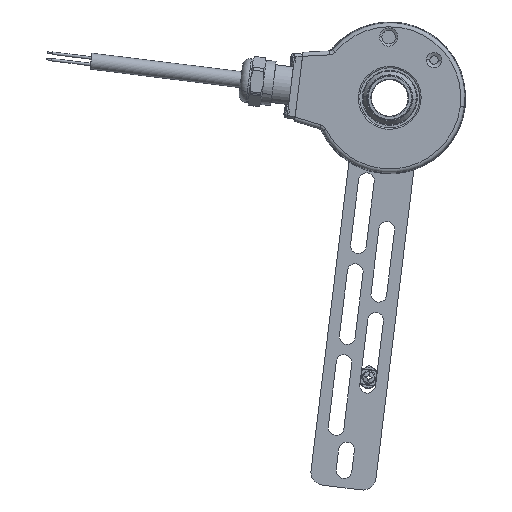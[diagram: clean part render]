
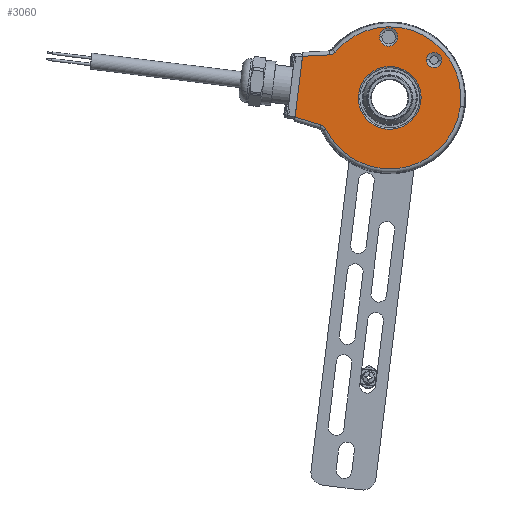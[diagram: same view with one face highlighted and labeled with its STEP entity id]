
A CAD part, left-side view. The second image highlights one B-rep face of the part: STEP entity #3060.
In plain terms, the highlighted planar face has unit normal (-1, 0, 0).
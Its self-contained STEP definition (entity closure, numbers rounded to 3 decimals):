
#2387 = EDGE_CURVE ( 'NONE', #3978, #3931, #4669, .T. ) ;
#3006 = ORIENTED_EDGE ( 'NONE', *, *, #3977, .T. ) ;
#3007 = ORIENTED_EDGE ( 'NONE', *, *, #6802, .T. ) ;
#3008 = EDGE_LOOP ( 'NONE', ( #3054, #3055 ) ) ;
#3009 = EDGE_LOOP ( 'NONE', ( #3056, #3007, #3013, #3164, #3165, #3158, #3154 ) ) ;
#3010 = ORIENTED_EDGE ( 'NONE', *, *, #2387, .T. ) ;
#3011 = ORIENTED_EDGE ( 'NONE', *, *, #3058, .T. ) ;
#3012 = EDGE_LOOP ( 'NONE', ( #3006, #3010 ) ) ;
#3013 = ORIENTED_EDGE ( 'NONE', *, *, #6771, .F. ) ;
#3054 = ORIENTED_EDGE ( 'NONE', *, *, #6780, .T. ) ;
#3055 = ORIENTED_EDGE ( 'NONE', *, *, #6903, .T. ) ;
#3056 = ORIENTED_EDGE ( 'NONE', *, *, #6894, .F. ) ;
#3058 = EDGE_CURVE ( 'NONE', #18146, #3536, #9121, .T. ) ;
#3059 = EDGE_LOOP ( 'NONE', ( #3061, #3011 ) ) ;
#3060 = ADVANCED_FACE ( 'NONE', ( #9116, #9115, #9114, #9113 ), #9159, .F. ) ;
#3061 = ORIENTED_EDGE ( 'NONE', *, *, #3472, .T. ) ;
#3154 = ORIENTED_EDGE ( 'NONE', *, *, #6759, .T. ) ;
#3158 = ORIENTED_EDGE ( 'NONE', *, *, #6770, .T. ) ;
#3164 = ORIENTED_EDGE ( 'NONE', *, *, #6842, .T. ) ;
#3165 = ORIENTED_EDGE ( 'NONE', *, *, #6821, .F. ) ;
#3472 = EDGE_CURVE ( 'NONE', #3536, #18146, #10409, .T. ) ;
#3536 = VERTEX_POINT ( 'NONE', #10611 ) ;
#3931 = VERTEX_POINT ( 'NONE', #11955 ) ;
#3977 = EDGE_CURVE ( 'NONE', #3931, #3978, #12097, .T. ) ;
#3978 = VERTEX_POINT ( 'NONE', #12092 ) ;
#4665 = DIRECTION ( 'NONE',  ( 0., -0.993, -0.122 ) ) ;
#4666 = DIRECTION ( 'NONE',  ( 1., 0., 0. ) ) ;
#4667 = CARTESIAN_POINT ( 'NONE',  ( -19., 0.406, 23.246 ) ) ;
#4668 = AXIS2_PLACEMENT_3D ( 'NONE', #4667, #4666, #4665 ) ;
#4669 = CIRCLE ( 'NONE', #4668, 3.466 ) ;
#6729 = VERTEX_POINT ( 'NONE', #14036 ) ;
#6740 = VERTEX_POINT ( 'NONE', #14063 ) ;
#6759 = EDGE_CURVE ( 'NONE', #6897, #6939, #14049, .T. ) ;
#6761 = VERTEX_POINT ( 'NONE', #14091 ) ;
#6770 = EDGE_CURVE ( 'NONE', #6761, #6897, #14083, .T. ) ;
#6771 = EDGE_CURVE ( 'NONE', #6844, #6740, #14084, .T. ) ;
#6780 = EDGE_CURVE ( 'NONE', #6882, #6791, #14114, .T. ) ;
#6791 = VERTEX_POINT ( 'NONE', #14183 ) ;
#6802 = EDGE_CURVE ( 'NONE', #6729, #6740, #14193, .T. ) ;
#6821 = EDGE_CURVE ( 'NONE', #6761, #6822, #14282, .T. ) ;
#6822 = VERTEX_POINT ( 'NONE', #14280 ) ;
#6842 = EDGE_CURVE ( 'NONE', #6844, #6822, #14363, .T. ) ;
#6844 = VERTEX_POINT ( 'NONE', #14400 ) ;
#6882 = VERTEX_POINT ( 'NONE', #14596 ) ;
#6894 = EDGE_CURVE ( 'NONE', #6729, #6939, #14632, .T. ) ;
#6897 = VERTEX_POINT ( 'NONE', #14655 ) ;
#6903 = EDGE_CURVE ( 'NONE', #6791, #6882, #14685, .T. ) ;
#6939 = VERTEX_POINT ( 'NONE', #14789 ) ;
#9113 = FACE_OUTER_BOUND ( 'NONE', #3009, .T. ) ;
#9114 = FACE_BOUND ( 'NONE', #3008, .T. ) ;
#9115 = FACE_BOUND ( 'NONE', #3012, .T. ) ;
#9116 = FACE_BOUND ( 'NONE', #3059, .T. ) ;
#9117 = DIRECTION ( 'NONE',  ( 0., -0.993, -0.122 ) ) ;
#9118 = DIRECTION ( 'NONE',  ( 1., 0., 0. ) ) ;
#9119 = CARTESIAN_POINT ( 'NONE',  ( -19., -16.919, 14.45 ) ) ;
#9120 = AXIS2_PLACEMENT_3D ( 'NONE', #9119, #9118, #9117 ) ;
#9121 = CIRCLE ( 'NONE', #9120, 2.899 ) ;
#9154 = DIRECTION ( 'NONE',  ( 0., -0.993, -0.122 ) ) ;
#9155 = DIRECTION ( 'NONE',  ( 1., 0., 0. ) ) ;
#9156 = CARTESIAN_POINT ( 'NONE',  ( -19., 0., 0. ) ) ;
#9157 = AXIS2_PLACEMENT_3D ( 'NONE', #9156, #9155, #9154 ) ;
#9159 = PLANE ( 'NONE',  #9157 ) ;
#10405 = DIRECTION ( 'NONE',  ( 0., -0.993, -0.122 ) ) ;
#10406 = DIRECTION ( 'NONE',  ( 1., 0., 0. ) ) ;
#10407 = CARTESIAN_POINT ( 'NONE',  ( -19., -16.919, 14.45 ) ) ;
#10408 = AXIS2_PLACEMENT_3D ( 'NONE', #10407, #10406, #10405 ) ;
#10409 = CIRCLE ( 'NONE', #10408, 2.899 ) ;
#10611 = CARTESIAN_POINT ( 'NONE',  ( -19., -14.042, 14.804 ) ) ;
#11955 = CARTESIAN_POINT ( 'NONE',  ( -19., 3.846, 23.669 ) ) ;
#12092 = CARTESIAN_POINT ( 'NONE',  ( -19., -3.034, 22.824 ) ) ;
#12093 = DIRECTION ( 'NONE',  ( 0., -0.993, -0.122 ) ) ;
#12094 = DIRECTION ( 'NONE',  ( 1., 0., 0. ) ) ;
#12095 = CARTESIAN_POINT ( 'NONE',  ( -19., 0.406, 23.246 ) ) ;
#12096 = AXIS2_PLACEMENT_3D ( 'NONE', #12095, #12094, #12093 ) ;
#12097 = CIRCLE ( 'NONE', #12096, 3.466 ) ;
#14036 = CARTESIAN_POINT ( 'NONE',  ( -19., 22.914, 16.45 ) ) ;
#14045 = DIRECTION ( 'NONE',  ( 0., -0.993, -0.122 ) ) ;
#14046 = DIRECTION ( 'NONE',  ( -1., 0., 0. ) ) ;
#14047 = CARTESIAN_POINT ( 'NONE',  ( -19., 0., 0. ) ) ;
#14048 = AXIS2_PLACEMENT_3D ( 'NONE', #14047, #14046, #14045 ) ;
#14049 = CIRCLE ( 'NONE', #14048, 27.173 ) ;
#14063 = CARTESIAN_POINT ( 'NONE',  ( -19., 33.31, 15.905 ) ) ;
#14076 = DIRECTION ( 'NONE',  ( 0., -0.122, 0.993 ) ) ;
#14077 = VECTOR ( 'NONE', #14076, 1000. ) ;
#14078 = CARTESIAN_POINT ( 'NONE',  ( -19., 36.354, -8.886 ) ) ;
#14079 = DIRECTION ( 'NONE',  ( 0., -0.993, -0.122 ) ) ;
#14080 = DIRECTION ( 'NONE',  ( -1., 0., 0. ) ) ;
#14081 = CARTESIAN_POINT ( 'NONE',  ( -19., 0., 0. ) ) ;
#14082 = AXIS2_PLACEMENT_3D ( 'NONE', #14081, #14080, #14079 ) ;
#14083 = CIRCLE ( 'NONE', #14082, 27.173 ) ;
#14084 = LINE ( 'NONE', #14078, #14077 ) ;
#14091 = CARTESIAN_POINT ( 'NONE',  ( -19., 24.396, -11.966 ) ) ;
#14110 = DIRECTION ( 'NONE',  ( 0., -0.993, -0.122 ) ) ;
#14111 = DIRECTION ( 'NONE',  ( 1., 0., 0. ) ) ;
#14112 = CARTESIAN_POINT ( 'NONE',  ( -19., 0., 0. ) ) ;
#14113 = AXIS2_PLACEMENT_3D ( 'NONE', #14112, #14111, #14110 ) ;
#14114 = CIRCLE ( 'NONE', #14113, 12. ) ;
#14183 = CARTESIAN_POINT ( 'NONE',  ( -19., 11.911, 1.462 ) ) ;
#14190 = DIRECTION ( 'NONE',  ( 0., 0.999, -0.052 ) ) ;
#14191 = VECTOR ( 'NONE', #14190, 1000. ) ;
#14192 = CARTESIAN_POINT ( 'NONE',  ( -19., 33.046, 15.919 ) ) ;
#14193 = LINE ( 'NONE', #14192, #14191 ) ;
#14268 = CARTESIAN_POINT ( 'NONE',  ( -19., 25.3, -10.87 ) ) ;
#14269 = CARTESIAN_POINT ( 'NONE',  ( -19., 24.989, -11.135 ) ) ;
#14270 = CARTESIAN_POINT ( 'NONE',  ( -19., 24.848, -11.282 ) ) ;
#14271 = CARTESIAN_POINT ( 'NONE',  ( -19., 24.597, -11.605 ) ) ;
#14272 = CARTESIAN_POINT ( 'NONE',  ( -19., 24.487, -11.781 ) ) ;
#14273 = CARTESIAN_POINT ( 'NONE',  ( -19., 24.396, -11.966 ) ) ;
#14280 = CARTESIAN_POINT ( 'NONE',  ( -19., 26.213, -10.418 ) ) ;
#14282 = B_SPLINE_CURVE_WITH_KNOTS ( 'NONE', 3,
 ( #14273, #14272, #14271, #14270, #14269, #14268, #14314, #14313, #14312, #14311 ),
 .UNSPECIFIED., .F., .F.,
 ( 4, 2, 2, 2, 4 ),
 ( 0., 0.001, 0.001, 0.002, 0.002 ),
 .UNSPECIFIED. ) ;
#14311 = CARTESIAN_POINT ( 'NONE',  ( -19., 26.213, -10.418 ) ) ;
#14312 = CARTESIAN_POINT ( 'NONE',  ( -19., 26.016, -10.478 ) ) ;
#14313 = CARTESIAN_POINT ( 'NONE',  ( -19., 25.828, -10.557 ) ) ;
#14314 = CARTESIAN_POINT ( 'NONE',  ( -19., 25.471, -10.753 ) ) ;
#14360 = DIRECTION ( 'NONE',  ( 0., -0.956, -0.292 ) ) ;
#14361 = VECTOR ( 'NONE', #14360, 1000. ) ;
#14362 = CARTESIAN_POINT ( 'NONE',  ( -19., 25.556, -10.618 ) ) ;
#14363 = LINE ( 'NONE', #14362, #14361 ) ;
#14400 = CARTESIAN_POINT ( 'NONE',  ( -19., 36.168, -7.374 ) ) ;
#14596 = CARTESIAN_POINT ( 'NONE',  ( -19., -11.911, -1.462 ) ) ;
#14614 = CARTESIAN_POINT ( 'NONE',  ( -19., 20.777, 17.512 ) ) ;
#14615 = CARTESIAN_POINT ( 'NONE',  ( -19., 20.91, 17.355 ) ) ;
#14616 = CARTESIAN_POINT ( 'NONE',  ( -19., 21.056, 17.213 ) ) ;
#14617 = CARTESIAN_POINT ( 'NONE',  ( -19., 21.376, 16.962 ) ) ;
#14618 = CARTESIAN_POINT ( 'NONE',  ( -19., 21.552, 16.851 ) ) ;
#14619 = CARTESIAN_POINT ( 'NONE',  ( -19., 21.917, 16.669 ) ) ;
#14620 = CARTESIAN_POINT ( 'NONE',  ( -19., 22.108, 16.597 ) ) ;
#14621 = CARTESIAN_POINT ( 'NONE',  ( -19., 22.503, 16.493 ) ) ;
#14622 = CARTESIAN_POINT ( 'NONE',  ( -19., 22.708, 16.461 ) ) ;
#14623 = CARTESIAN_POINT ( 'NONE',  ( -19., 22.914, 16.45 ) ) ;
#14632 = B_SPLINE_CURVE_WITH_KNOTS ( 'NONE', 3,
 ( #14623, #14622, #14621, #14620, #14619, #14618, #14617, #14616, #14615, #14614 ),
 .UNSPECIFIED., .F., .F.,
 ( 4, 2, 2, 2, 4 ),
 ( 0., 0.001, 0.001, 0.002, 0.002 ),
 .UNSPECIFIED. ) ;
#14655 = CARTESIAN_POINT ( 'NONE',  ( -19., -26.97, -3.312 ) ) ;
#14681 = DIRECTION ( 'NONE',  ( 0., -0.993, -0.122 ) ) ;
#14682 = DIRECTION ( 'NONE',  ( 1., 0., 0. ) ) ;
#14683 = CARTESIAN_POINT ( 'NONE',  ( -19., 0., 0. ) ) ;
#14684 = AXIS2_PLACEMENT_3D ( 'NONE', #14683, #14682, #14681 ) ;
#14685 = CIRCLE ( 'NONE', #14684, 12. ) ;
#14789 = CARTESIAN_POINT ( 'NONE',  ( -19., 20.777, 17.512 ) ) ;
#18146 = VERTEX_POINT ( 'NONE', #18582 ) ;
#18582 = CARTESIAN_POINT ( 'NONE',  ( -19., -19.796, 14.097 ) ) ;
